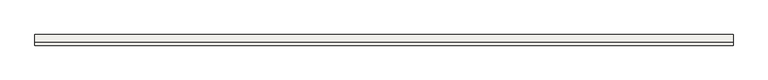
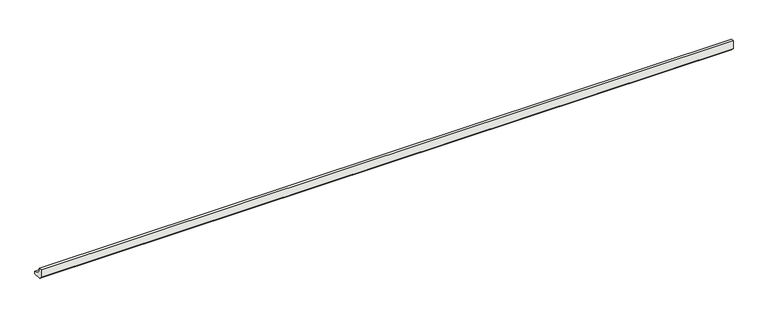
"""IFC4 building model written with IfcOpenShell, lengths in millimetres: slab geometry, ROSA GRES_188 : Pieza 188_Pietro_White_Anti-Slip."""

import ifcopenshell
import ifcopenshell.guid

model = None  # the IFC model being written
_history = None  # IfcOwnerHistory: only IFC2X3 demands one
_inside = {}  # id of a spatial element -> (the spatial element, [elements in it])
_under = {}  # id of a project, library or spatial element -> (it, [spatial elements below it])
_declared = {}  # id of a project -> (the project, [libraries it declares])
_typed = {}  # id of a type object -> (the type object, [elements of that type])
_made_of = {}  # id of a material, layer set ... -> (it, [elements and type objects made of it])


def new_model(schema):
    """Start an empty IFC model of exactly this schema.

    Asked for "IFC4X3", IfcOpenShell would pick the latest addendum, in which some entities
    have other attributes; the version numbers below select the first issue.
    IFC2X3 requires an IfcOwnerHistory on every rooted entity: one is made here for all.
    """
    global model, _history
    if schema == "IFC4X3":
        model = ifcopenshell.file(schema_version=(4, 3, 0, 0))
    else:
        model = ifcopenshell.file(schema=schema)
    _inside.clear()
    _under.clear()
    _declared.clear()
    _typed.clear()
    _made_of.clear()
    _history = None
    if model.schema == "IFC2X3":
        org = make("IfcOrganization", Name="unknown")
        user = make(
            "IfcPersonAndOrganization",
            ThePerson=make("IfcPerson", FamilyName="unknown"),
            TheOrganization=org,
        )
        app = make(
            "IfcApplication",
            ApplicationDeveloper=org,
            Version="unknown",
            ApplicationFullName="unknown",
            ApplicationIdentifier="unknown",
        )
        _history = make(
            "IfcOwnerHistory",
            OwningUser=user,
            OwningApplication=app,
            ChangeAction="ADDED",
            CreationDate=0,
        )
    return model


def make(cls, **values):
    """One entity of the class cls with the attributes given. An attribute that is None is left unset."""
    return model.create_entity(
        cls, **{name: value for name, value in values.items() if value is not None}
    )


def rooted(cls, **values):
    """An entity with a GlobalId (a new one), such as an element, a storey or a relation."""
    return make(cls, GlobalId=ifcopenshell.guid.new(), OwnerHistory=_history, **values)


def si_unit(unit_type, name, prefix=None):
    """IfcSIUnit, for example si_unit("LENGTHUNIT", "METRE", prefix="MILLI")."""
    return make("IfcSIUnit", UnitType=unit_type, Prefix=prefix, Name=name)


def assignment(units):
    """IfcUnitAssignment: the units of a project."""
    return None if units is None else make("IfcUnitAssignment", Units=units)


def point(xyz):
    """IfcCartesianPoint."""
    return None if xyz is None else make("IfcCartesianPoint", Coordinates=xyz)


def direction(xyz):
    """IfcDirection."""
    return None if xyz is None else make("IfcDirection", DirectionRatios=xyz)


def frame(location, z_axis=None, x_axis=None):
    """IfcAxis2Placement3D, a coordinate frame: its origin and axes. An axis left out is left unset."""
    return make(
        "IfcAxis2Placement3D",
        Location=point(location),
        Axis=direction(z_axis),
        RefDirection=direction(x_axis),
    )


def frame_2d(location, x_axis=None):
    """IfcAxis2Placement2D, a coordinate frame in the plane: its origin and x axis."""
    return make(
        "IfcAxis2Placement2D", Location=point(location), RefDirection=direction(x_axis)
    )


def origin():
    """The frame at (0, 0, 0) with its axes left unset."""
    return frame((0.0, 0.0, 0.0))


def place(relative_to, where):
    """IfcLocalPlacement: puts the frame where relative to a parent placement (None: the world)."""
    return make(
        "IfcLocalPlacement", PlacementRelTo=relative_to, RelativePlacement=where
    )


def context(
    kind, dimensions, precision=None, world=None, true_north=None, identifier=None
):
    """IfcGeometricRepresentationContext, for example the 3D "Model" context."""
    return make(
        "IfcGeometricRepresentationContext",
        ContextIdentifier=identifier,
        ContextType=kind,
        CoordinateSpaceDimension=dimensions,
        Precision=precision,
        WorldCoordinateSystem=world,
        TrueNorth=true_north,
    )


def project(units=None, contexts=None):
    """IfcProject with its units and contexts."""
    return rooted(
        "IfcProject",
        Name="project",
        RepresentationContexts=contexts,
        UnitsInContext=assignment(units),
    )


def spatial(cls, under=None, at=None, **own):
    """A site, building, storey or space (cls), placed at a placement, below another one or the project."""
    s = rooted(cls, ObjectPlacement=at, **own)
    if under is not None:
        _under.setdefault(under.id(), (under, []))[1].append(s)
    return s


def polyline(points):
    """IfcPolyline through the points."""
    return make("IfcPolyline", Points=[point(p) for p in points])


def circle_curve(where, radius):
    """IfcCircle in the frame where."""
    return make("IfcCircle", Position=where, Radius=radius)


def trimmed(basis, trim1, trim2, sense, master):
    """IfcTrimmedCurve: the piece of a basis curve between two trims."""
    return make(
        "IfcTrimmedCurve",
        BasisCurve=basis,
        Trim1=trim1,
        Trim2=trim2,
        SenseAgreement=sense,
        MasterRepresentation=master,
    )


def segment(curve, same_sense, transition):
    """IfcCompositeCurveSegment."""
    return make(
        "IfcCompositeCurveSegment",
        Transition=transition,
        SameSense=same_sense,
        ParentCurve=curve,
    )


def composite_curve(segments, self_intersect=None):
    """IfcCompositeCurve: segments joined end to end."""
    return make("IfcCompositeCurve", Segments=segments, SelfIntersect=self_intersect)


def outline(outer, holes=None, kind="AREA"):
    """IfcArbitraryClosedProfileDef: a profile drawn as a closed curve; with holes, ...WithVoids."""
    if holes is None:
        return make("IfcArbitraryClosedProfileDef", ProfileType=kind, OuterCurve=outer)
    return make(
        "IfcArbitraryProfileDefWithVoids",
        ProfileType=kind,
        OuterCurve=outer,
        InnerCurves=holes,
    )


def extrude(swept, where, along, depth):
    """IfcExtrudedAreaSolid: the profile swept, set in the frame where, extruded along a direction by depth."""
    return make(
        "IfcExtrudedAreaSolid",
        SweptArea=swept,
        Position=where,
        ExtrudedDirection=direction(along),
        Depth=depth,
    )


def shape(context_of_items, identifier, shape_type, items):
    """IfcShapeRepresentation: the items that make up one representation, for example the "Body"."""
    return make(
        "IfcShapeRepresentation",
        ContextOfItems=context_of_items,
        RepresentationIdentifier=identifier,
        RepresentationType=shape_type,
        Items=items,
    )


def source(mapping_origin, context_of_items, identifier, shape_type, items):
    """IfcRepresentationMap: a shape defined once, which mapped items show again and again."""
    return make(
        "IfcRepresentationMap",
        MappingOrigin=mapping_origin,
        MappedRepresentation=shape(context_of_items, identifier, shape_type, items),
    )


def transform(
    local_origin,
    x_axis=None,
    y_axis=None,
    z_axis=None,
    scale=None,
    scale2=None,
    scale3=None,
    uniform=True,
):
    """IfcCartesianTransformationOperator3D, or its non-uniform kind. x_axis, y_axis, z_axis: its Axis1, 2, 3."""
    if uniform:
        return make(
            "IfcCartesianTransformationOperator3D",
            Axis1=direction(x_axis),
            Axis2=direction(y_axis),
            LocalOrigin=point(local_origin),
            Scale=scale,
            Axis3=direction(z_axis),
        )
    return make(
        "IfcCartesianTransformationOperator3DnonUniform",
        Axis1=direction(x_axis),
        Axis2=direction(y_axis),
        LocalOrigin=point(local_origin),
        Scale=scale,
        Axis3=direction(z_axis),
        Scale2=scale2,
        Scale3=scale3,
    )


def mapped(mapping_source, mapping_target):
    """IfcMappedItem: shows the shape of a source again, moved by a transform."""
    return make(
        "IfcMappedItem", MappingSource=mapping_source, MappingTarget=mapping_target
    )


def made_of(thing, what):
    """Note that an element or type object is made of a material, layer set ...; save() writes the relation."""
    if what is not None:
        _made_of.setdefault(what.id(), (what, []))[1].append(thing)
    return thing


def element(
    cls,
    number,
    at=None,
    inside=None,
    cuts=None,
    type_object=None,
    material=None,
    context=None,
    identifier="Body",
    shape_type=None,
    held_by="IfcProductDefinitionShape",
    body=None,
    shapes=None,
    **own,
):
    """One element of the class cls, such as IfcWall. Its Tag is "e" and its number.

    at: its placement. inside: the storey or other place that contains it. cuts: it is an
    opening in that element (IfcRelVoidsElement). A single representation is given by context,
    identifier, shape_type and body (its items); several are given by shapes. held_by: the class
    of the entity that holds the representations. save() writes the other relations.
    """
    e = rooted(cls, Tag="e%d" % number, ObjectPlacement=at, **own)
    if body is not None:
        shapes = [shape(context, identifier, shape_type, body)]
    if shapes is not None:
        e.Representation = make(held_by, Representations=shapes)
    if inside is not None:
        _inside.setdefault(inside.id(), (inside, []))[1].append(e)
    if cuts is not None:
        rooted(
            "IfcRelVoidsElement", RelatingBuildingElement=cuts, RelatedOpeningElement=e
        )
    if type_object is not None:
        _typed.setdefault(type_object.id(), (type_object, []))[1].append(e)
    return made_of(e, material)


def aggregate(whole, parts):
    """IfcRelAggregates: a whole, such as a stair, and the parts it consists of."""
    return rooted("IfcRelAggregates", RelatingObject=whole, RelatedObjects=parts)


def save(model, path):
    """Write the relations noted so far, then the file.

    IfcRelAggregates (storeys below a building ...), IfcRelContainedInSpatialStructure (elements
    in a storey), IfcRelDefinesByType, IfcRelAssociatesMaterial and IfcRelDeclares: one each for
    every whole, place, type object, material and project.
    """
    for whole, parts in _under.values():
        aggregate(whole, parts)
    for where, things in _inside.values():
        rooted(
            "IfcRelContainedInSpatialStructure",
            RelatedElements=things,
            RelatingStructure=where,
        )
    for kind, things in _typed.values():
        rooted("IfcRelDefinesByType", RelatedObjects=things, RelatingType=kind)
    for what, things in _made_of.values():
        rooted("IfcRelAssociatesMaterial", RelatedObjects=things, RelatingMaterial=what)
    for by, libraries in _declared.values():
        rooted("IfcRelDeclares", RelatingContext=by, RelatedDefinitions=libraries)
    model.write(path)


def slab_3af4a02d(model_context):
    return source(origin(), model_context, "Body", "SweptSolid", [
        extrude(outline(composite_curve([segment(polyline([(0.0, 8.7114978), (0.0, 40.0), (9.9734114, 40.0)]), True, "CONTINUOUS"), segment(trimmed(circle_curve(frame_2d((39.9955547, 39.9955547)), 30.0221435), [point((9.9734114, 40.0))], [point((40.0, 9.9734114))], True, "CARTESIAN"), True, "CONTINUOUS"), segment(polyline([(40.0, 9.9734114), (40.0, 0.0), (8.7114978, 0.0), (0.0, 8.7114978)]), True, "CONTINUOUS")], self_intersect=False)), frame((0.0, 0.0, 0.0), z_axis=(1.0, 0.0, 0.0), x_axis=(0.0, 1.0, 0.0)), (0.0, 0.0, 1.0), 2620.5619667),
    ])


if __name__ == "__main__":
    model = new_model("IFC4")
    model_context = context("Model", 3, world=origin())
    ifc_project = project(units=[si_unit("LENGTHUNIT", "METRE", prefix="MILLI")], contexts=[model_context])
    site = spatial("IfcSite", under=ifc_project)
    building = spatial("IfcBuilding", under=site)
    placement = place(None, origin())
    slab_shape = slab_3af4a02d(model_context)
    element("IfcSlab", 1, ObjectType="ROSA GRES_188 : Pieza 188_Pietro_White_Anti-Slip", at=placement, inside=building, context=model_context, shape_type="MappedRepresentation", body=[
        mapped(slab_shape, transform((0.0, 0.0, 0.0), x_axis=(1.0, 0.0, 0.0), y_axis=(0.0, 1.0, 0.0), z_axis=(0.0, 0.0, 1.0))),
    ])
    save(model, "model.ifc")
